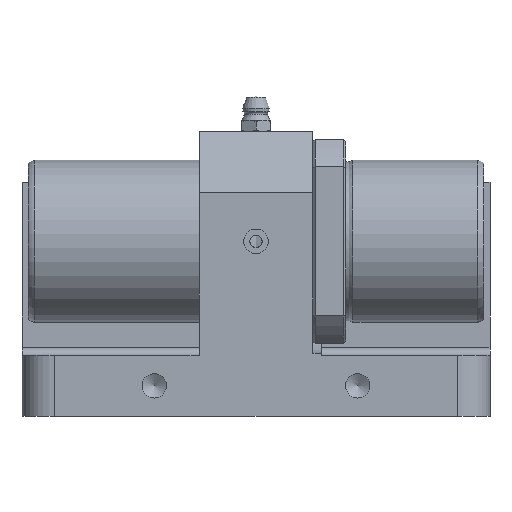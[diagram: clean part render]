
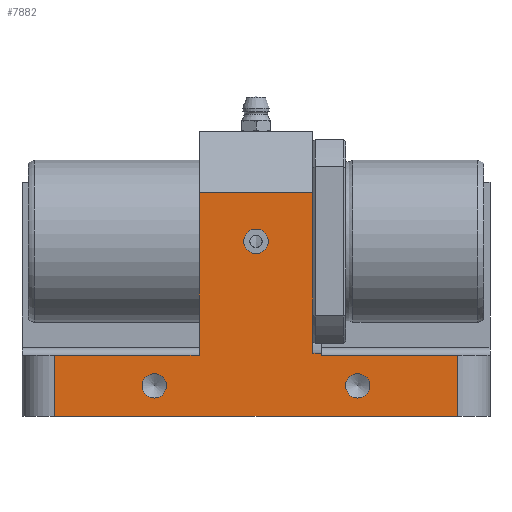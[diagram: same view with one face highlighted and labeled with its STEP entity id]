
A CAD part, front view. The second image highlights one B-rep face of the part: STEP entity #7882.
In plain terms, the highlighted planar face has unit normal (0, -1, 0).
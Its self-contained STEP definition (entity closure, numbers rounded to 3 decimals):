
#7736=CARTESIAN_POINT('',(107.,-75.0,15.0));
#7737=VERTEX_POINT('',#7736);
#7745=CARTESIAN_POINT('',(107.,-75.0,0.0));
#7746=VERTEX_POINT('',#7745);
#7747=CARTESIAN_POINT('',(107.,-75.0,15.0));
#7748=DIRECTION('',(0.0,0.0,-1.0));
#7749=VECTOR('',#7748,15.0);
#7750=LINE('',#7747,#7749);
#7751=EDGE_CURVE('',#7737,#7746,#7750,.T.);
#7771=CARTESIAN_POINT('',(115.0,-75.0,0.0));
#7772=DIRECTION('',(0.0,-1.0,0.0));
#7773=DIRECTION('',(0.0,0.0,-1.0));
#7774=AXIS2_PLACEMENT_3D('',#7771,#7772,#7773);
#7775=PLANE('',#7774);
#7776=ORIENTED_EDGE('',*,*,#7751,.F.);
#7777=CARTESIAN_POINT('',(73.5,-75.0,15.0));
#7778=VERTEX_POINT('',#7777);
#7779=CARTESIAN_POINT('',(107.,-75.0,15.0));
#7780=DIRECTION('',(-1.0,0.0,0.0));
#7781=VECTOR('',#7780,33.5);
#7782=LINE('',#7779,#7781);
#7783=EDGE_CURVE('',#7737,#7778,#7782,.T.);
#7784=ORIENTED_EDGE('',*,*,#7783,.T.);
#7785=CARTESIAN_POINT('',(73.5,-75.0,15.5));
#7786=VERTEX_POINT('',#7785);
#7787=CARTESIAN_POINT('',(73.5,-75.0,15.0));
#7788=DIRECTION('',(0.0,0.0,1.0));
#7789=VECTOR('',#7788,0.5);
#7790=LINE('',#7787,#7789);
#7791=EDGE_CURVE('',#7778,#7786,#7790,.T.);
#7792=ORIENTED_EDGE('',*,*,#7791,.T.);
#7793=CARTESIAN_POINT('',(71.5,-75.0,15.5));
#7794=VERTEX_POINT('',#7793);
#7795=CARTESIAN_POINT('',(71.5,-75.0,15.5));
#7796=DIRECTION('',(1.0,0.0,0.0));
#7797=VECTOR('',#7796,2.0);
#7798=LINE('',#7795,#7797);
#7799=EDGE_CURVE('',#7794,#7786,#7798,.T.);
#7800=ORIENTED_EDGE('',*,*,#7799,.F.);
#7801=CARTESIAN_POINT('',(71.5,-75.0,55.0));
#7802=VERTEX_POINT('',#7801);
#7803=CARTESIAN_POINT('',(71.5,-75.0,15.5));
#7804=DIRECTION('',(0.0,0.0,1.0));
#7805=VECTOR('',#7804,39.5);
#7806=LINE('',#7803,#7805);
#7807=EDGE_CURVE('',#7794,#7802,#7806,.T.);
#7808=ORIENTED_EDGE('',*,*,#7807,.T.);
#7809=CARTESIAN_POINT('',(43.5,-75.0,55.0));
#7810=VERTEX_POINT('',#7809);
#7811=CARTESIAN_POINT('',(43.5,-75.0,55.0));
#7812=DIRECTION('',(1.0,0.0,0.0));
#7813=VECTOR('',#7812,28.);
#7814=LINE('',#7811,#7813);
#7815=EDGE_CURVE('',#7810,#7802,#7814,.T.);
#7816=ORIENTED_EDGE('',*,*,#7815,.F.);
#7817=CARTESIAN_POINT('',(43.5,-75.0,15.));
#7818=VERTEX_POINT('',#7817);
#7819=CARTESIAN_POINT('',(43.5,-75.0,55.0));
#7820=DIRECTION('',(0.0,0.0,-1.0));
#7821=VECTOR('',#7820,40.);
#7822=LINE('',#7819,#7821);
#7823=EDGE_CURVE('',#7810,#7818,#7822,.T.);
#7824=ORIENTED_EDGE('',*,*,#7823,.T.);
#7825=CARTESIAN_POINT('',(8.,-75.0,15.));
#7826=VERTEX_POINT('',#7825);
#7827=CARTESIAN_POINT('',(43.5,-75.0,15.));
#7828=DIRECTION('',(-1.0,0.0,0.0));
#7829=VECTOR('',#7828,35.5);
#7830=LINE('',#7827,#7829);
#7831=EDGE_CURVE('',#7818,#7826,#7830,.T.);
#7832=ORIENTED_EDGE('',*,*,#7831,.T.);
#7833=CARTESIAN_POINT('',(8.,-75.0,0.0));
#7834=VERTEX_POINT('',#7833);
#7835=CARTESIAN_POINT('',(8.,-75.0,0.0));
#7836=DIRECTION('',(0.0,0.0,1.0));
#7837=VECTOR('',#7836,15.);
#7838=LINE('',#7835,#7837);
#7839=EDGE_CURVE('',#7834,#7826,#7838,.T.);
#7840=ORIENTED_EDGE('',*,*,#7839,.F.);
#7841=CARTESIAN_POINT('',(8.,-75.0,0.0));
#7842=DIRECTION('',(1.0,0.0,0.0));
#7843=VECTOR('',#7842,99.);
#7844=LINE('',#7841,#7843);
#7845=EDGE_CURVE('',#7834,#7746,#7844,.T.);
#7846=ORIENTED_EDGE('',*,*,#7845,.T.);
#7847=EDGE_LOOP('',(#7776,#7784,#7792,#7800,#7808,#7816,#7824,#7832,#7840,#7846));
#7848=FACE_OUTER_BOUND('',#7847,.T.);
#7849=CARTESIAN_POINT('',(85.5,-75.0,7.5));
#7850=VERTEX_POINT('',#7849);
#7851=CARTESIAN_POINT('',(82.5,-75.0,7.5));
#7852=DIRECTION('',(0.0,1.0,0.0));
#7853=DIRECTION('',(1.0,0.0,0.0));
#7854=AXIS2_PLACEMENT_3D('',#7851,#7852,#7853);
#7855=CIRCLE('',#7854,3.);
#7856=EDGE_CURVE('',#7850,#7850,#7855,.T.);
#7857=ORIENTED_EDGE('',*,*,#7856,.T.);
#7858=EDGE_LOOP('',(#7857));
#7859=FACE_BOUND('',#7858,.T.);
#7860=CARTESIAN_POINT('',(35.5,-75.0,7.5));
#7861=VERTEX_POINT('',#7860);
#7862=CARTESIAN_POINT('',(32.5,-75.0,7.5));
#7863=DIRECTION('',(0.0,1.0,0.0));
#7864=DIRECTION('',(1.0,0.0,0.0));
#7865=AXIS2_PLACEMENT_3D('',#7862,#7863,#7864);
#7866=CIRCLE('',#7865,3.);
#7867=EDGE_CURVE('',#7861,#7861,#7866,.T.);
#7868=ORIENTED_EDGE('',*,*,#7867,.T.);
#7869=EDGE_LOOP('',(#7868));
#7870=FACE_BOUND('',#7869,.T.);
#7871=CARTESIAN_POINT('',(60.5,-75.0,43.));
#7872=VERTEX_POINT('',#7871);
#7873=CARTESIAN_POINT('',(57.5,-75.0,43.));
#7874=DIRECTION('',(0.0,1.0,0.0));
#7875=DIRECTION('',(1.0,0.0,0.0));
#7876=AXIS2_PLACEMENT_3D('',#7873,#7874,#7875);
#7877=CIRCLE('',#7876,3.);
#7878=EDGE_CURVE('',#7872,#7872,#7877,.T.);
#7879=ORIENTED_EDGE('',*,*,#7878,.T.);
#7880=EDGE_LOOP('',(#7879));
#7881=FACE_BOUND('',#7880,.T.);
#7882=ADVANCED_FACE('',(#7848,#7859,#7870,#7881),#7775,.T.);
